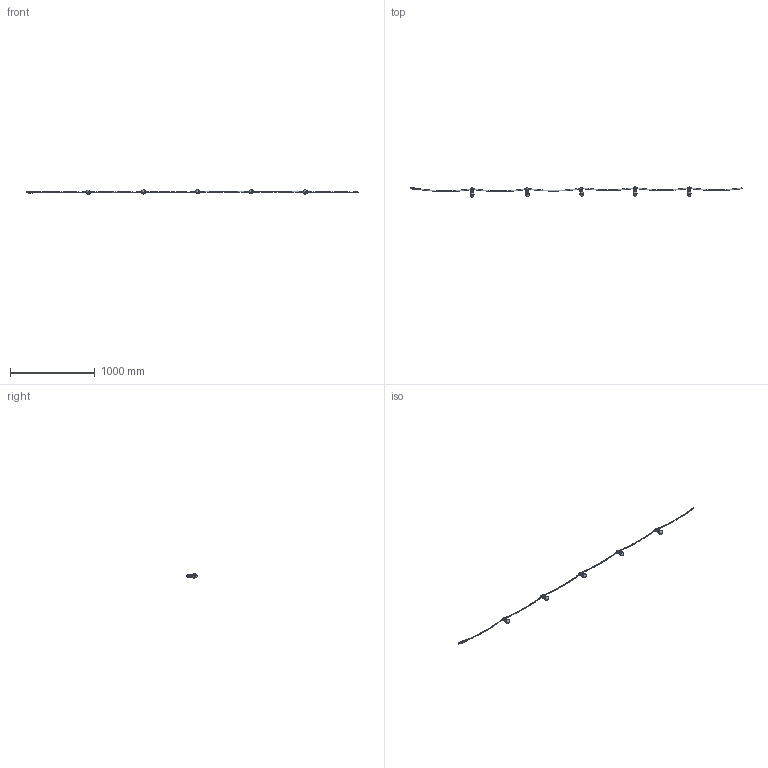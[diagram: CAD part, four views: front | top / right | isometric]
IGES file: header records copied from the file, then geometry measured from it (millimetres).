
Start section: SolidWorks IGES file using analytic representation for surfaces
Global section: file name: Z:\Modele 3D_WWW\_KOLEKCJE_WWW\FESTOON-LIGHTS-7872-7873\FESTOON-LIGHTS-7872-7873.IGS; native system: SolidWorks 2021; preprocessor: SolidWorks 2021; author: gabriela.tworek; date: 210625.082351; units: millimetre
Bounding box: 3910.6 x 122.48 x 55.04 mm (x, y, z)
Surface area: 208534.3 mm2 (no closed solid volume)
Topology: 0 solids, 0 shells, 1652 faces, 22689 edges, 22603 vertices
Faces by surface type: revolution 930, bspline 722
